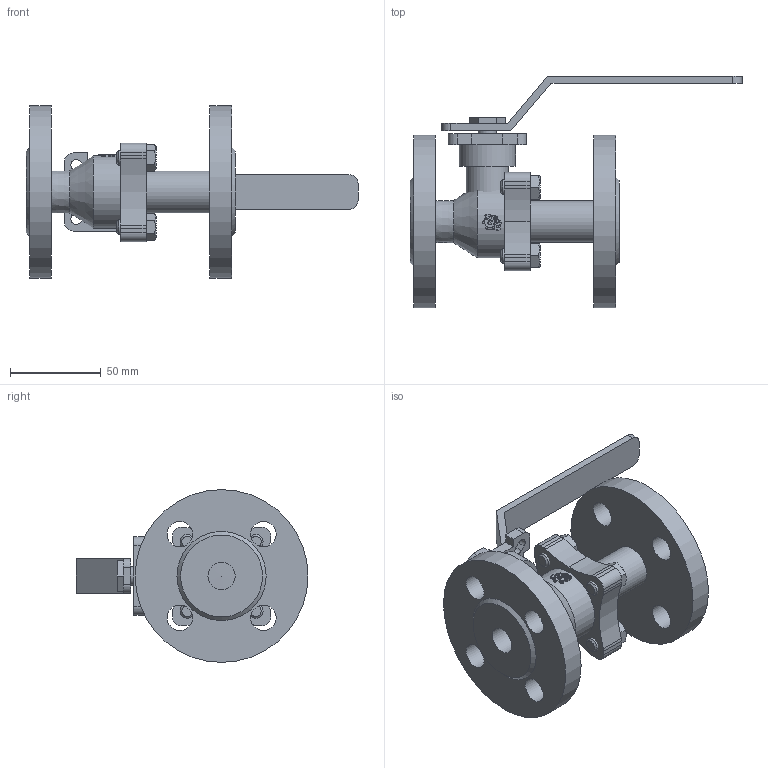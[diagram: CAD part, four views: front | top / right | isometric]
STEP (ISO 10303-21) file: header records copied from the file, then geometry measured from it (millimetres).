
FILE_DESCRIPTION(('STEP AP203'), '1');
FILE_NAME('3D_7528-015-40_1', '', ('UNSPECIFIED'), ('UNSPECIFIED'), 'C3D Converter', 'C3D Toolkit', '');
FILE_SCHEMA(('CONFIG_CONTROL_DESIGN'));
Length unit declared in the file: millimetre
Bounding box: 182.5 x 127.5 x 95 mm (x, y, z)
Volume: 297207.7 mm3; surface area: 79460.5 mm2
Topology: 21 solids, 21 shells, 1002 faces, 2887 edges, 1935 vertices
Faces by surface type: plane 921, cylinder 64, cone 13, torus 4
Full cylindrical faces by diameter (mm): 8 x4, 10 x2, 14 x8, 15 x2, 23 x2, 31 x1, 40 x1, 95 x2
Entity records: 41719 total; most frequent: CARTESIAN_POINT 9452, ORIENTED_EDGE 5694, DIRECTION 4198, EDGE_CURVE 2847, VERTEX_POINT 1934, LINE 1846, VECTOR 1846, AXIS2_PLACEMENT_3D 1176
